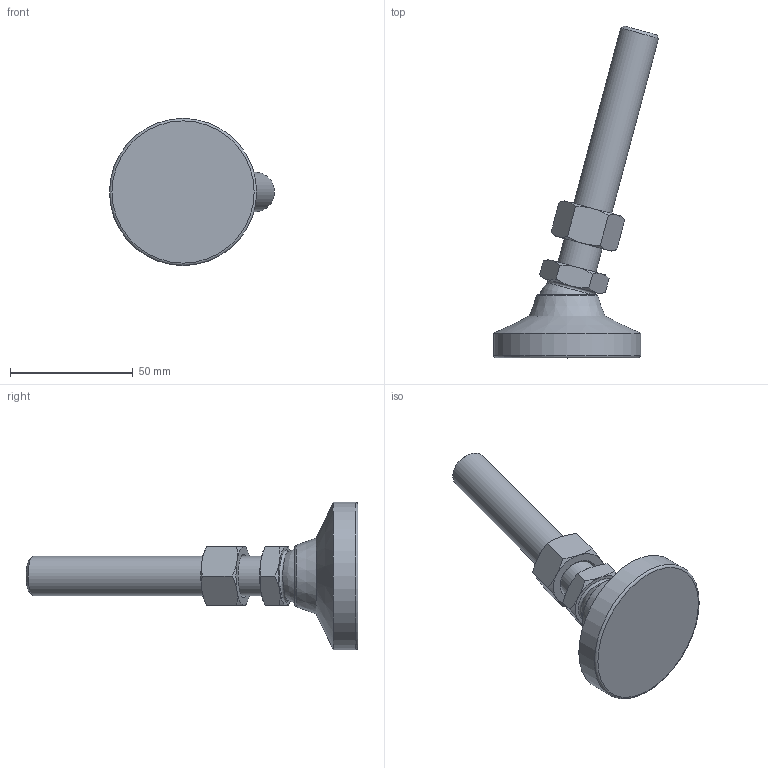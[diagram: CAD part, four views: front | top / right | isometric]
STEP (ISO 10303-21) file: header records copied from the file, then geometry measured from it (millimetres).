
FILE_DESCRIPTION( ( 'STEP AP214' ), ' ' );
FILE_NAME( 'O:/ganter_2015/teil_2/2_5/gn343_2/gn343_2_kse/Levelling foot with threaded stud GN 343.2-60-M16-100-KSE-(-15).stp', '2015-10-26T09:17:20', ( '' ), ( '' ), ' ', 'PARTsolutions', ' ' );
FILE_SCHEMA( ( 'AUTOMOTIVE_DESIGN { 1 0 10303 214 1 1 1 1 }' ) );
Length unit declared in the file: millimetre
Products named in the file (4): Levelling foot with threaded stud GN 343.2-60-M16-100-KSE-(-15); _Levelling foot with threaded stud GN 343.2-60-M16-100-KSE-(-15)_foot; _Levelling foot with threaded stud GN 343.2-60-M16-100-KSE-(-15)_screw; _Levelling foot with threaded stud GN 343.2-60-M16-100-KSE-(-15)_nut
Assembly tree (3 placements, depth 2):
  Levelling foot with threaded stud GN 343.2-60-M16-100-KSE-(-15)
    _Levelling foot with threaded stud GN 343.2-60-M16-100-KSE-(-15)_foot
    _Levelling foot with threaded stud GN 343.2-60-M16-100-KSE-(-15)_screw
    _Levelling foot with threaded stud GN 343.2-60-M16-100-KSE-(-15)_nut
Bounding box: 67.3 x 135.33 x 60 mm (x, y, z)
Volume: 75711.7 mm3; surface area: 19105.3 mm2
Topology: 3 solids, 3 shells, 56 faces, 117 edges, 68 vertices
Faces by surface type: cone 29, plane 19, torus 3, cylinder 3, sphere 2
Full cylindrical faces by diameter (mm): 13.835 x1, 16 x1, 60 x1
Entity records: 2082 total; most frequent: CARTESIAN_POINT 514, DIRECTION 212, ORIENTED_EDGE 200, AXIS2_PLACEMENT_3D 100, EDGE_CURVE 100, EDGE_LOOP 72, VERTEX_POINT 66, FACE_OUTER_BOUND 62
